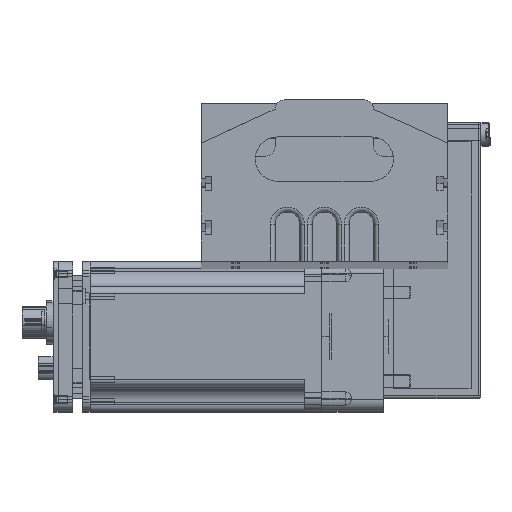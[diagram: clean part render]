
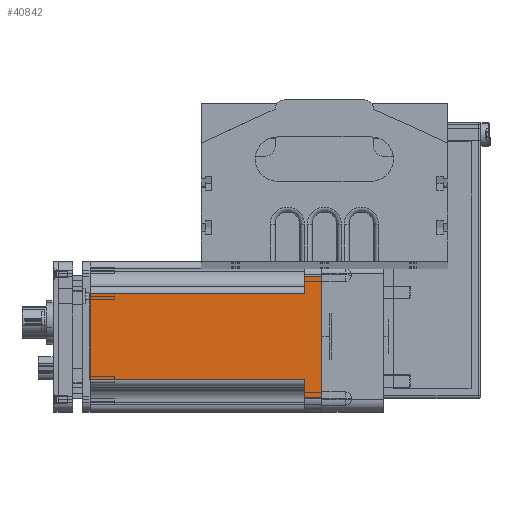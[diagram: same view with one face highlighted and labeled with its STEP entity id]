
A CAD part, top view. The second image highlights one B-rep face of the part: STEP entity #40842.
In plain terms, the highlighted planar face has unit normal (0, 0, 1).
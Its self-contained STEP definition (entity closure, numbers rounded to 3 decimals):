
#20894 = LINE ( 'NONE', #20955, #20954 ) ;
#20915 = CARTESIAN_POINT ( 'NONE',  ( -17.5, 7., 30.5 ) ) ;
#20953 = DIRECTION ( 'NONE',  ( 1., 0., 0. ) ) ;
#20954 = VECTOR ( 'NONE', #20953, 1000. ) ;
#20955 = CARTESIAN_POINT ( 'NONE',  ( -24.5, 7., 30.5 ) ) ;
#20985 = CARTESIAN_POINT ( 'NONE',  ( -24.5, 7., 30.5 ) ) ;
#21077 = CARTESIAN_POINT ( 'NONE',  ( -24.5, 0., 30.5 ) ) ;
#21212 = DIRECTION ( 'NONE',  ( 0., 1., 0. ) ) ;
#21213 = VECTOR ( 'NONE', #21212, 1000. ) ;
#21214 = CARTESIAN_POINT ( 'NONE',  ( -24.5, 7., 30.5 ) ) ;
#21219 = LINE ( 'NONE', #21214, #21213 ) ;
#21363 = FACE_OUTER_BOUND ( 'NONE', #40859, .T. ) ;
#21405 = DIRECTION ( 'NONE',  ( 1., 0., 0. ) ) ;
#21406 = VECTOR ( 'NONE', #21405, 1000. ) ;
#21407 = CARTESIAN_POINT ( 'NONE',  ( -24.5, 0., 30.5 ) ) ;
#21408 = LINE ( 'NONE', #21407, #21406 ) ;
#21417 = CARTESIAN_POINT ( 'NONE',  ( -17.5, 94., 30.5 ) ) ;
#21458 = CARTESIAN_POINT ( 'NONE',  ( 24.5, 7., 30.5 ) ) ;
#21462 = CARTESIAN_POINT ( 'NONE',  ( 17.5, 94., 30.5 ) ) ;
#21464 = DIRECTION ( 'NONE',  ( -1., 0., 0. ) ) ;
#21465 = DIRECTION ( 'NONE',  ( 0., 0., -1. ) ) ;
#21466 = CARTESIAN_POINT ( 'NONE',  ( -24.5, 7., 30.5 ) ) ;
#21467 = AXIS2_PLACEMENT_3D ( 'NONE', #21466, #21465, #21464 ) ;
#21468 = PLANE ( 'NONE',  #21467 ) ;
#21505 = DIRECTION ( 'NONE',  ( 1., 0., 0. ) ) ;
#21506 = VECTOR ( 'NONE', #21505, 1000. ) ;
#21514 = CARTESIAN_POINT ( 'NONE',  ( 24.5, 0., 30.5 ) ) ;
#21517 = CARTESIAN_POINT ( 'NONE',  ( 26.5, 94., 30.5 ) ) ;
#21518 = LINE ( 'NONE', #21517, #21506 ) ;
#21536 = DIRECTION ( 'NONE',  ( 0., 1., 0. ) ) ;
#21537 = VECTOR ( 'NONE', #21536, 1000. ) ;
#21538 = CARTESIAN_POINT ( 'NONE',  ( -17.5, 7., 30.5 ) ) ;
#21539 = LINE ( 'NONE', #21538, #21537 ) ;
#21544 = DIRECTION ( 'NONE',  ( 0., -1., 0. ) ) ;
#21545 = VECTOR ( 'NONE', #21544, 1000. ) ;
#21546 = DIRECTION ( 'NONE',  ( 1., 0., 0. ) ) ;
#21547 = VECTOR ( 'NONE', #21546, 1000. ) ;
#21548 = CARTESIAN_POINT ( 'NONE',  ( -24.5, 7., 30.5 ) ) ;
#21549 = LINE ( 'NONE', #21548, #21547 ) ;
#21552 = DIRECTION ( 'NONE',  ( 0., -1., 0. ) ) ;
#21553 = VECTOR ( 'NONE', #21552, 1000. ) ;
#21554 = CARTESIAN_POINT ( 'NONE',  ( 24.5, 7., 30.5 ) ) ;
#21555 = LINE ( 'NONE', #21562, #21545 ) ;
#21557 = LINE ( 'NONE', #21554, #21553 ) ;
#21562 = CARTESIAN_POINT ( 'NONE',  ( 17.5, 95.35, 30.5 ) ) ;
#21565 = CARTESIAN_POINT ( 'NONE',  ( 17.5, 7., 30.5 ) ) ;
#40341 = VERTEX_POINT ( 'NONE', #20915 ) ;
#40351 = EDGE_CURVE ( 'NONE', #40389, #40341, #20894, .T. ) ;
#40389 = VERTEX_POINT ( 'NONE', #20985 ) ;
#40487 = VERTEX_POINT ( 'NONE', #21077 ) ;
#40613 = EDGE_CURVE ( 'NONE', #40487, #40389, #21219, .T. ) ;
#40828 = EDGE_CURVE ( 'NONE', #40487, #40945, #21408, .T. ) ;
#40830 = VERTEX_POINT ( 'NONE', #21417 ) ;
#40834 = ORIENTED_EDGE ( 'NONE', *, *, #40828, .T. ) ;
#40838 = ORIENTED_EDGE ( 'NONE', *, *, #40946, .F. ) ;
#40840 = ORIENTED_EDGE ( 'NONE', *, *, #40961, .F. ) ;
#40841 = ORIENTED_EDGE ( 'NONE', *, *, #40351, .F. ) ;
#40842 = ADVANCED_FACE ( 'NONE', ( #21363 ), #21468, .F. ) ;
#40843 = VERTEX_POINT ( 'NONE', #21462 ) ;
#40856 = VERTEX_POINT ( 'NONE', #21458 ) ;
#40859 = EDGE_LOOP ( 'NONE', ( #40892, #40841, #40944, #40834, #40838, #40958, #40840, #40921 ) ) ;
#40892 = ORIENTED_EDGE ( 'NONE', *, *, #40964, .F. ) ;
#40919 = EDGE_CURVE ( 'NONE', #40830, #40843, #21518, .T. ) ;
#40921 = ORIENTED_EDGE ( 'NONE', *, *, #40919, .F. ) ;
#40944 = ORIENTED_EDGE ( 'NONE', *, *, #40613, .F. ) ;
#40945 = VERTEX_POINT ( 'NONE', #21514 ) ;
#40946 = EDGE_CURVE ( 'NONE', #40856, #40945, #21557, .T. ) ;
#40951 = VERTEX_POINT ( 'NONE', #21565 ) ;
#40954 = EDGE_CURVE ( 'NONE', #40951, #40856, #21549, .T. ) ;
#40958 = ORIENTED_EDGE ( 'NONE', *, *, #40954, .F. ) ;
#40961 = EDGE_CURVE ( 'NONE', #40843, #40951, #21555, .T. ) ;
#40964 = EDGE_CURVE ( 'NONE', #40341, #40830, #21539, .T. ) ;
